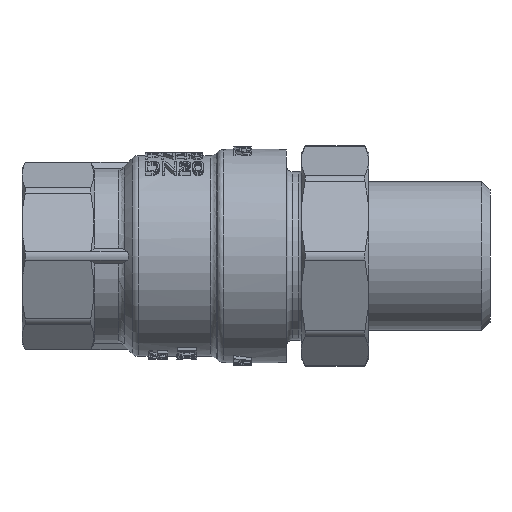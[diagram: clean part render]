
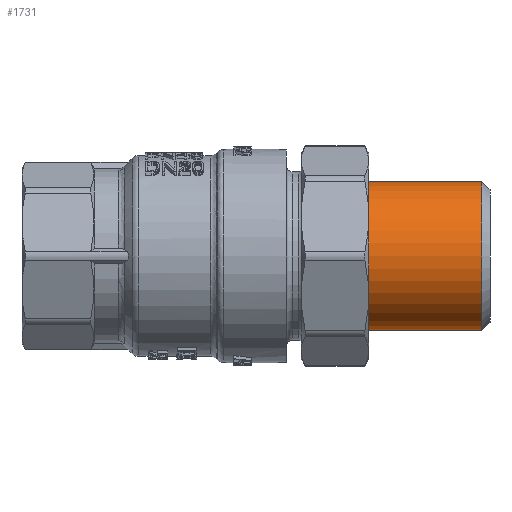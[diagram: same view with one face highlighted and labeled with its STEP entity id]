
A CAD part, front view. The second image highlights one B-rep face of the part: STEP entity #1731.
In plain terms, the highlighted cylindrical face has radius 13.22 mm (diameter 26.441 mm), a full revolution.
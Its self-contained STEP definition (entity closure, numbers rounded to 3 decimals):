
#1731=ADVANCED_FACE('',(#14797,#14799),#14801,.T.);
#14797=FACE_OUTER_BOUND('',#14798,.T.);
#14798=EDGE_LOOP('',(#26521));
#14799=FACE_OUTER_BOUND('',#14800,.T.);
#14800=EDGE_LOOP('',(#26522));
#14801=CYLINDRICAL_SURFACE('',#14802,13.221);
#14802=AXIS2_PLACEMENT_3D('',#14803,#14804,#14805);
#14803=CARTESIAN_POINT('',(23.123,0.,0.));
#14804=DIRECTION('',(1.,0.,0.));
#14805=DIRECTION('',(0.,0.,-1.));
#26521=ORIENTED_EDGE('',*,*,#32541,.F.);
#26522=ORIENTED_EDGE('',*,*,#32512,.F.);
#32512=EDGE_CURVE('',#41159,#41159,#41160,.F.);
#32541=EDGE_CURVE('',#41198,#41198,#41199,.T.);
#41159=VERTEX_POINT('',#70696);
#41160=CIRCLE('',#70697,13.221);
#41198=VERTEX_POINT('',#70925);
#41199=CIRCLE('',#70926,13.221);
#70696=CARTESIAN_POINT('',(30.623,0.,-13.221));
#70697=AXIS2_PLACEMENT_3D('',#70698,#70699,#70700);
#70698=CARTESIAN_POINT('',(30.623,0.,0.));
#70699=DIRECTION('',(1.,0.,0.));
#70700=DIRECTION('',(0.,0.,-1.));
#70925=CARTESIAN_POINT('',(52.623,0.,-13.221));
#70926=AXIS2_PLACEMENT_3D('',#70927,#70928,#70929);
#70927=CARTESIAN_POINT('',(52.623,0.,0.));
#70928=DIRECTION('',(1.,0.,0.));
#70929=DIRECTION('',(0.,0.,-1.));
